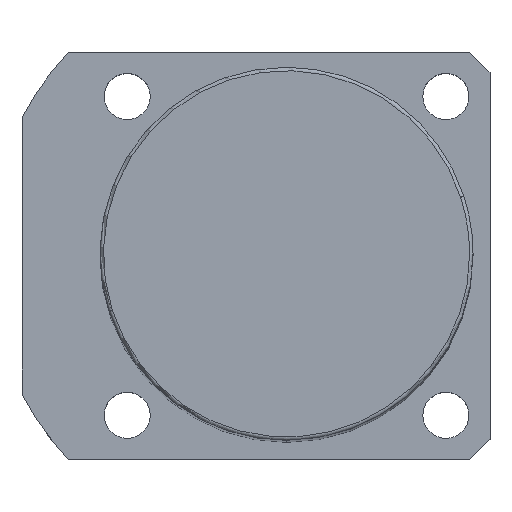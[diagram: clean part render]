
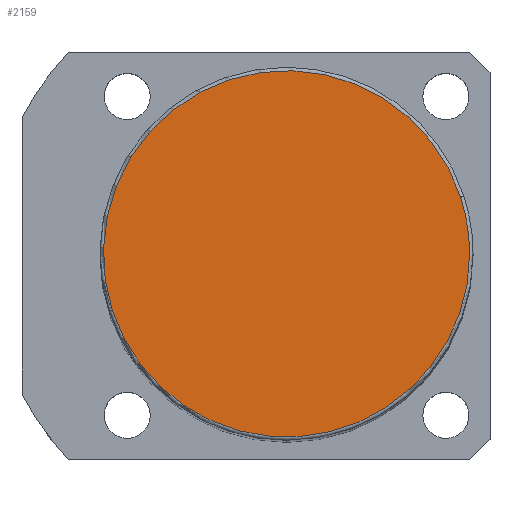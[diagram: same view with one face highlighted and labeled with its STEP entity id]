
A CAD part, top view. The second image highlights one B-rep face of the part: STEP entity #2159.
In plain terms, the highlighted planar face has unit normal (0, 0, 1).
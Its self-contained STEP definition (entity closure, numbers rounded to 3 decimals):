
#2092=CARTESIAN_POINT('',(25.679,8.343,186.0));
#2093=VERTEX_POINT('',#2092);
#2111=CARTESIAN_POINT('',(-25.679,-8.343,186.0));
#2112=VERTEX_POINT('',#2111);
#2120=CARTESIAN_POINT('',(0.0,0.0,186.0));
#2121=DIRECTION('',(0.0,0.0,1.0));
#2122=DIRECTION('',(1.0,0.0,0.0));
#2123=AXIS2_PLACEMENT_3D('',#2120,#2121,#2122);
#2124=CIRCLE('',#2123,27.0);
#2125=EDGE_CURVE('no 2164',#2093,#2112,#2124,.T.);
#2135=CARTESIAN_POINT('',(27.0,0.0,186.0));
#2136=VERTEX_POINT('',#2135);
#2137=CARTESIAN_POINT('',(0.0,0.0,186.0));
#2138=DIRECTION('',(0.0,0.0,1.0));
#2139=DIRECTION('',(1.0,0.0,0.0));
#2140=AXIS2_PLACEMENT_3D('',#2137,#2138,#2139);
#2141=CIRCLE('',#2140,27.0);
#2142=EDGE_CURVE('no 2173',#2136,#2093,#2141,.T.);
#2143=ORIENTED_EDGE('',*,*,#2142,.T.);
#2144=ORIENTED_EDGE('',*,*,#2125,.T.);
#2145=CARTESIAN_POINT('',(0.0,0.0,186.0));
#2146=DIRECTION('',(0.0,0.0,1.0));
#2147=DIRECTION('',(1.0,0.0,0.0));
#2148=AXIS2_PLACEMENT_3D('',#2145,#2146,#2147);
#2149=CIRCLE('',#2148,27.0);
#2150=EDGE_CURVE('no 2179',#2112,#2136,#2149,.T.);
#2151=ORIENTED_EDGE('',*,*,#2150,.T.);
#2152=EDGE_LOOP('',(#2143,#2144,#2151));
#2153=FACE_OUTER_BOUND('',#2152,.T.);
#2154=CARTESIAN_POINT('',(0.0,0.0,186.0));
#2155=DIRECTION('',(0.0,0.0,1.0));
#2156=DIRECTION('',(1.0,0.0,0.0));
#2157=AXIS2_PLACEMENT_3D('',#2154,#2155,#2156);
#2158=PLANE('',#2157);
#2159=ADVANCED_FACE('no 2166',(#2153),#2158,.T.);
